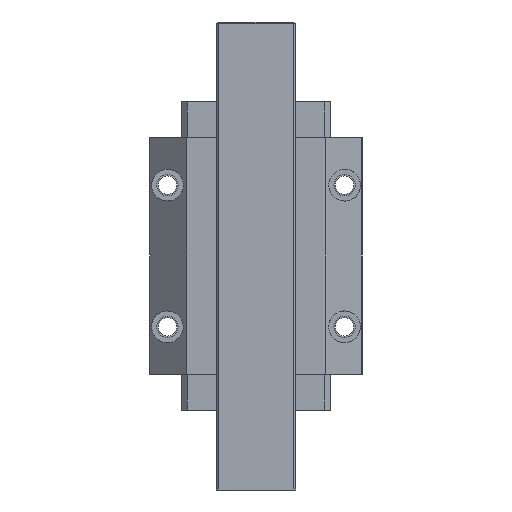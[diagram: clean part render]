
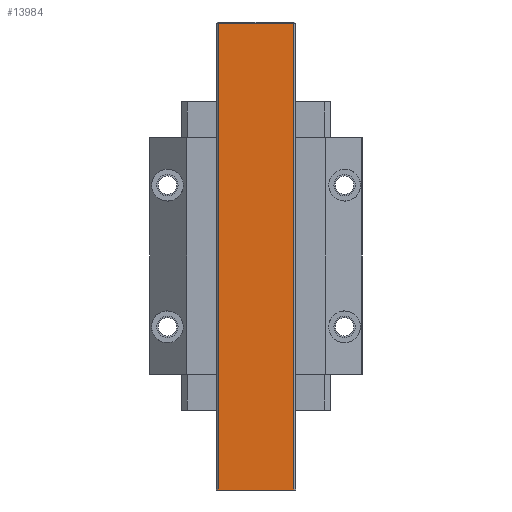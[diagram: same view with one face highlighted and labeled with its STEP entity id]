
A CAD part, front view. The second image highlights one B-rep face of the part: STEP entity #13984.
In plain terms, the highlighted planar face has unit normal (0, -1, 0).
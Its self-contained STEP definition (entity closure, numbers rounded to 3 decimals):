
#12945=DIRECTION('',(1.,0.,0.));
#12946=VECTOR('',#12945,42.6);
#12947=CARTESIAN_POINT('',(-21.3,-23.5,-132.05));
#12948=LINE('',#12947,#12946);
#13218=DIRECTION('',(1.,0.,0.));
#13219=VECTOR('',#13218,42.6);
#13220=CARTESIAN_POINT('',(-21.3,-23.5,131.184));
#13221=LINE('',#13220,#13219);
#13222=DIRECTION('',(0.,0.,1.));
#13223=VECTOR('',#13222,263.234);
#13224=CARTESIAN_POINT('',(-21.3,-23.5,-132.05));
#13225=LINE('',#13224,#13223);
#13230=DIRECTION('',(0.,0.,1.));
#13231=VECTOR('',#13230,263.234);
#13232=CARTESIAN_POINT('',(21.3,-23.5,-132.05));
#13233=LINE('',#13232,#13231);
#13416=CARTESIAN_POINT('',(-21.3,-23.5,-132.05));
#13417=VERTEX_POINT('',#13416);
#13418=CARTESIAN_POINT('',(21.3,-23.5,-132.05));
#13419=VERTEX_POINT('',#13418);
#13480=CARTESIAN_POINT('',(21.3,-23.5,131.184));
#13481=VERTEX_POINT('',#13480);
#13484=CARTESIAN_POINT('',(-21.3,-23.5,131.184));
#13485=VERTEX_POINT('',#13484);
#13972=CARTESIAN_POINT('',(-21.3,-23.5,-132.05));
#13973=DIRECTION('',(0.,-1.,0.));
#13974=DIRECTION('',(1.,0.,0.));
#13975=AXIS2_PLACEMENT_3D('',#13972,#13973,#13974);
#13976=PLANE('',#13975);
#13977=ORIENTED_EDGE('',*,*,#13963,.T.);
#13979=ORIENTED_EDGE('',*,*,#13978,.F.);
#13980=ORIENTED_EDGE('',*,*,#13565,.F.);
#13981=ORIENTED_EDGE('',*,*,#13938,.T.);
#13982=EDGE_LOOP('',(#13977,#13979,#13980,#13981));
#13983=FACE_OUTER_BOUND('',#13982,.F.);
#13565=EDGE_CURVE('',#13417,#13419,#12948,.T.);
#13938=EDGE_CURVE('',#13417,#13485,#13225,.T.);
#13963=EDGE_CURVE('',#13485,#13481,#13221,.T.);
#13978=EDGE_CURVE('',#13419,#13481,#13233,.T.);
#13984=ADVANCED_FACE('',(#13983),#13976,.T.);
